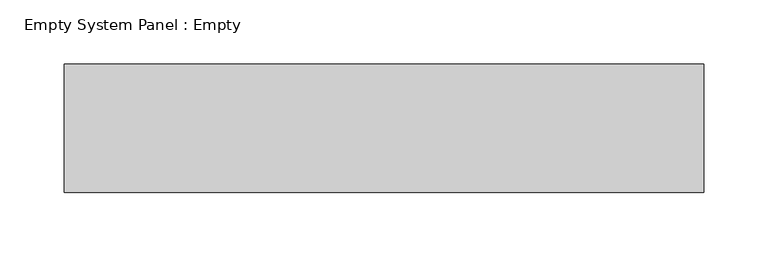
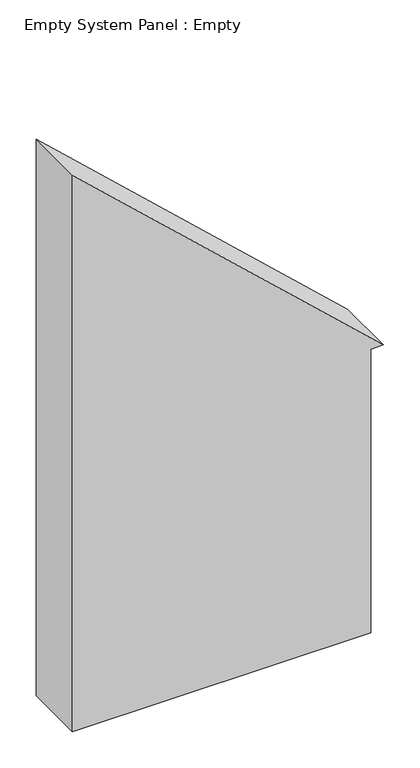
"""IFC4 building model written with IfcOpenShell, lengths in millimetres: plate geometry, Empty System Panel : Empty."""

from ifc_helpers import new_model, si_unit, frame, origin, place, context, project, spatial, polyline, outline, extrude, source, transform, mapped, element, save


def empty_system_panel_empty_8a46a420(model_context):
    return source(origin(), model_context, "Body", "SweptSolid", [
        extrude(outline(polyline([(0.0, -248.680783), (0.0, 228.680783), (479.6959808, 228.680783), (479.6959808, 248.680783), (940.8480255, -248.680783), (0.0, -248.680783)])), frame((0.0, -50.0, 0.0), z_axis=(0.0, 1.0, 0.0), x_axis=(0.0, 0.0, 1.0)), (0.0, 0.0, 1.0), 100.0),
    ])


if __name__ == "__main__":
    model = new_model("IFC4")
    model_context = context("Model", 3, world=origin())
    ifc_project = project(units=[si_unit("LENGTHUNIT", "METRE", prefix="MILLI")], contexts=[model_context])
    site = spatial("IfcSite", under=ifc_project)
    building = spatial("IfcBuilding", under=site)
    placement = place(None, origin())
    empty_system_panel_empty_shape = empty_system_panel_empty_8a46a420(model_context)
    element("IfcPlate", 1, ObjectType="Empty System Panel : Empty", at=placement, inside=building, context=model_context, shape_type="MappedRepresentation", body=[
        mapped(empty_system_panel_empty_shape, transform((0.0, 0.0, 0.0), x_axis=(1.0, 0.0, 0.0), y_axis=(0.0, 1.0, 0.0), z_axis=(0.0, 0.0, 1.0))),
    ])
    save(model, "model.ifc")
